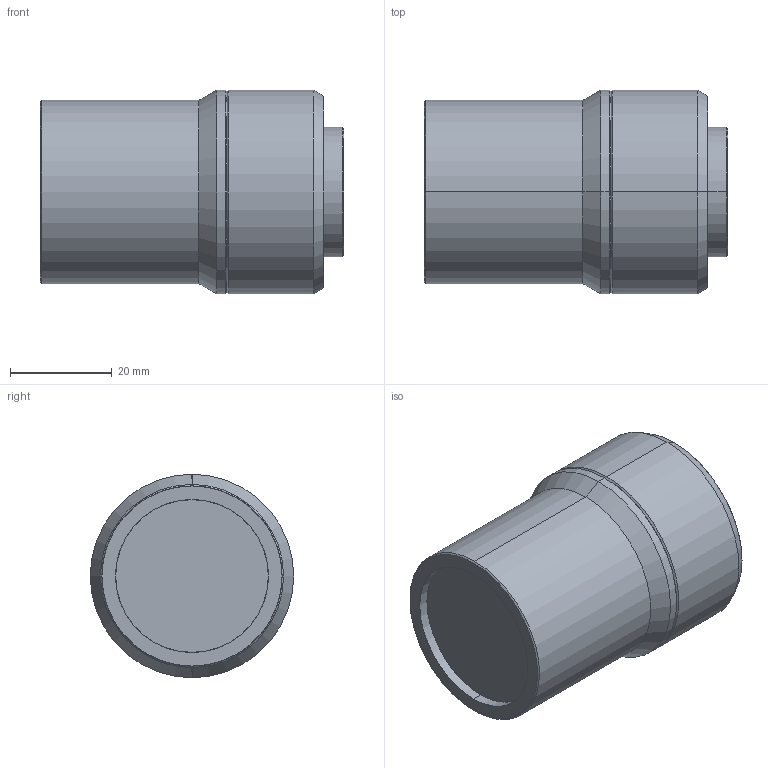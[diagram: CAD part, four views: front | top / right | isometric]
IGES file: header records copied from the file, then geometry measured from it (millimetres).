
Start section: SolidWorks IGES file using analytic representation for surfaces
Global section: file name: C:\Users\16255\Desktop\WWT118-0244-220.IGS; native system: SolidWorks 2017; preprocessor: SolidWorks 2017; author: 16255; date: 210730.083810; units: millimetre
Bounding box: 59.7 x 40 x 40 mm (x, y, z)
Surface area: 9316.9 mm2 (no closed solid volume)
Topology: 0 solids, 0 shells, 26 faces, 408 edges, 408 vertices
Faces by surface type: revolution 22, bspline 4
